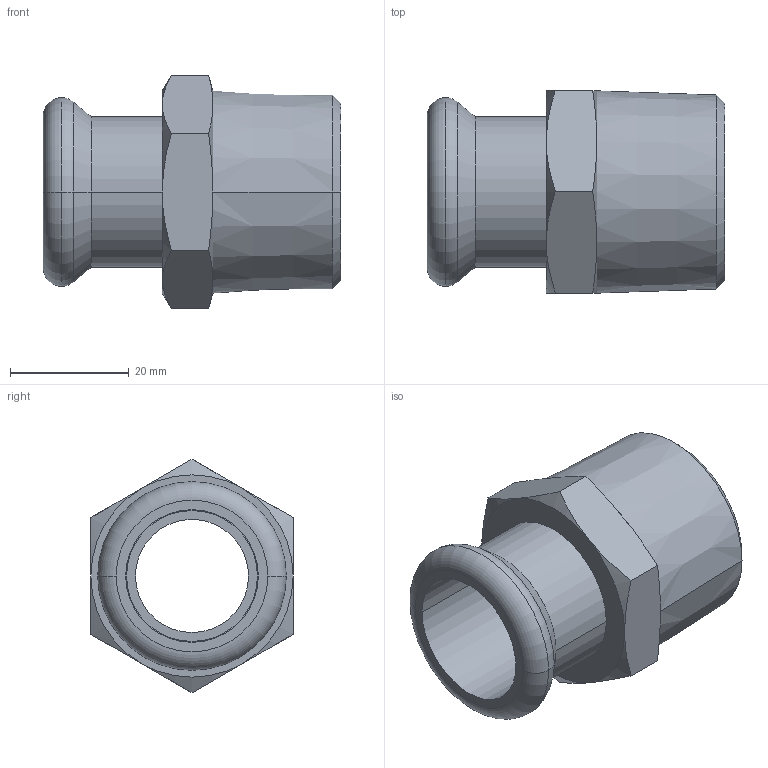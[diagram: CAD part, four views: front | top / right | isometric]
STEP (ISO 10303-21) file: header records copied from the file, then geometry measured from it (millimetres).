
FILE_DESCRIPTION(('CoCreate Modeling STEP Export'),'2;1');
FILE_NAME('C1405 22xR1.stp','2014-11-07T14:17:14',(''),(''),'CoCreate Modeling STEP processor for AP214 (Solid Model)','CoCreate Modeling 17.00A 17-Jun-2010 (C) Parametric Technology GmbH','');
FILE_SCHEMA(('AUTOMOTIVE_DESIGN { 1 0 10303 214 1 1 1 1 }'));
Length unit declared in the file: millimetre
Products named in the file (2): C1405_22xR1
Assembly tree (1 placements, depth 2):
  C1405_22xR1
    C1405_22xR1
Bounding box: 50 x 34 x 39.26 mm (x, y, z)
Volume: 14928.1 mm3; surface area: 10441.3 mm2
Topology: 1 solids, 1 shells, 49 faces, 104 edges, 62 vertices
Faces by surface type: cone 20, plane 13, cylinder 12, torus 4
Entity records: 1946 total; most frequent: CARTESIAN_POINT 1034, ORIENTED_EDGE 208, DIRECTION 130, EDGE_CURVE 104, VERTEX_POINT 62, EDGE_LOOP 56, AXIS2_PLACEMENT_3D 52, FACE_OUTER_BOUND 49
